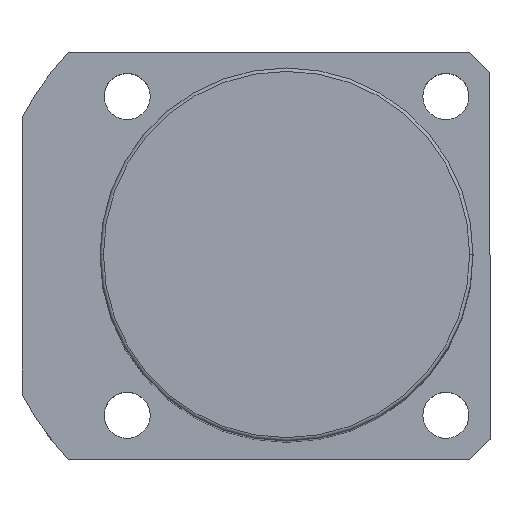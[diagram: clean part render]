
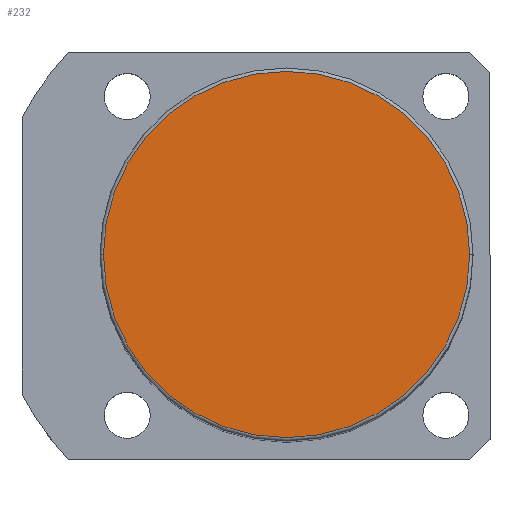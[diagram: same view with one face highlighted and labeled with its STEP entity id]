
A CAD part, top view. The second image highlights one B-rep face of the part: STEP entity #232.
In plain terms, the highlighted planar face has unit normal (0, 0, 1).
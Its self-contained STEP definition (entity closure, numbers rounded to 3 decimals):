
#119 = EDGE_CURVE ( 'NONE', #237, #1079, #1734, .T. ) ;
#232 = ADVANCED_FACE ( 'NONE', ( #1060 ), #1116, .T. ) ;
#237 = VERTEX_POINT ( 'NONE', #1891 ) ;
#366 = CARTESIAN_POINT ( 'NONE',  ( 0., 0., 126. ) ) ;
#413 = AXIS2_PLACEMENT_3D ( 'NONE', #1142, #1134, #825 ) ;
#522 = DIRECTION ( 'NONE',  ( 0., 0., 1. ) ) ;
#680 = DIRECTION ( 'NONE',  ( 1., 0., 0. ) ) ;
#703 = CARTESIAN_POINT ( 'NONE',  ( 0., 0., 126. ) ) ;
#825 = DIRECTION ( 'NONE',  ( 1., 0., 0. ) ) ;
#889 = EDGE_LOOP ( 'NONE', ( #1663, #1216 ) ) ;
#976 = CARTESIAN_POINT ( 'NONE',  ( 27., 0., 126. ) ) ;
#1060 = FACE_OUTER_BOUND ( 'NONE', #889, .T. ) ;
#1079 = VERTEX_POINT ( 'NONE', #976 ) ;
#1116 = PLANE ( 'NONE',  #1232 ) ;
#1134 = DIRECTION ( 'NONE',  ( 0., 0., 1. ) ) ;
#1142 = CARTESIAN_POINT ( 'NONE',  ( 0., 0., 126. ) ) ;
#1216 = ORIENTED_EDGE ( 'NONE', *, *, #119, .T. ) ;
#1232 = AXIS2_PLACEMENT_3D ( 'NONE', #366, #522, #1577 ) ;
#1577 = DIRECTION ( 'NONE',  ( 1., 0., 0. ) ) ;
#1599 = AXIS2_PLACEMENT_3D ( 'NONE', #703, #1904, #680 ) ;
#1663 = ORIENTED_EDGE ( 'NONE', *, *, #1938, .T. ) ;
#1734 = CIRCLE ( 'NONE', #413, 27. ) ;
#1817 = CIRCLE ( 'NONE', #1599, 27. ) ;
#1891 = CARTESIAN_POINT ( 'NONE',  ( -27., 0., 126. ) ) ;
#1904 = DIRECTION ( 'NONE',  ( 0., 0., 1. ) ) ;
#1938 = EDGE_CURVE ( 'NONE', #1079, #237, #1817, .T. ) ;
